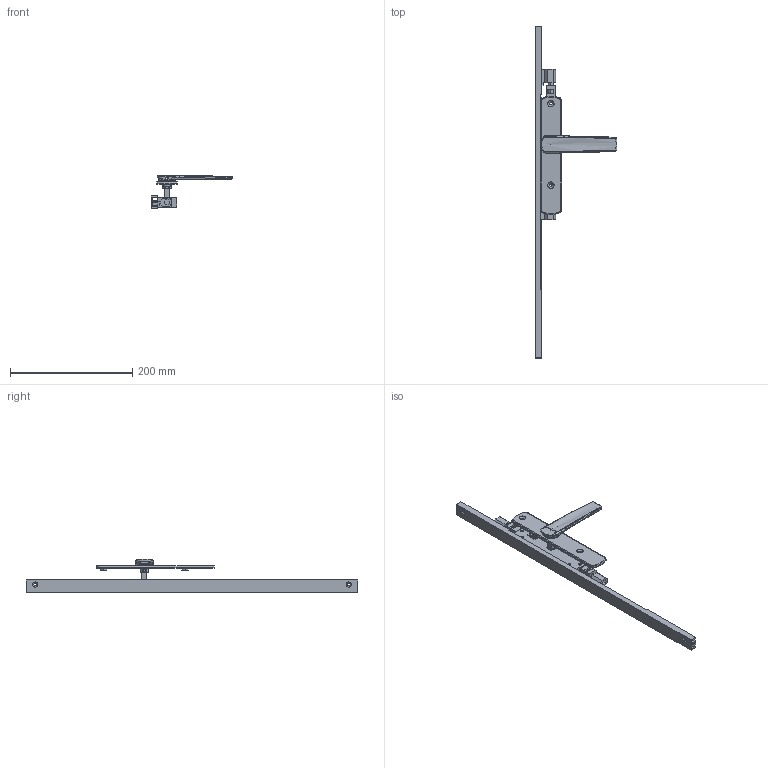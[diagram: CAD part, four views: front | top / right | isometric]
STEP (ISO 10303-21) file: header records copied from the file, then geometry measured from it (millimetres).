
FILE_DESCRIPTION (( 'STEP AP214' ), '1' );
FILE_NAME ('TPL-W-APC-604-U 28Oct2024.STEP', '2024-10-28T03:16:32', ( '' ), ( '' ), 'SwSTEP 2.0', 'SolidWorks 2023', '' );
FILE_SCHEMA (( 'AUTOMOTIVE_DESIGN' ));
Length unit declared in the file: millimetre
Products named in the file (18): Copy of COV-115-C Cover C suit TPLGen2 standard range AU^TPL-W-APC-104 18Oct2024; Copy of LKC-585 Rotator body zinc^Copy of TPGen2 handle non-keyed short zinc - simplified_TPL-W-APC-104 18Oct2024; Copy of COV-115-A Cover A suit TPLGen2 standard range AU with hinge holes^TPL-W-APC-104 18Oct2024_2870mm; Copy of LKC-586 Spindle square 8mm with M4 hole^Copy of TPGen2 handle non-keyed short zinc - simplified_TPL-W-APC-104 18Oct2024_37mm; Copy of LKC-531-A Rod TPLGen2 machined bolt end^TPL-W-APC-104 18Oct2024_LKC-531-A-M003; Copy of TPGen2 handle non-keyed short zinc - simplified^TPL-W-APC-104 18Oct2024_Right; Adapter D - simplfied^TPL-W-APC-104 18Oct2024; Bottom twinpoint transmission rod wood system^TPL-W-APC-104 18Oct2024_Standard Range 2891.7mm; TPL-W-APC-604-U 28Oct2024; Bolt.step; Adapter C - simplfied^TPL-W-APC-104 18Oct2024; Copy of COV-115-B Cover B suit TPLGen2 standard range AU with hinge holes^TPL-W-APC-104 18Oct2024_2870mm; Copy of TPLGen2 lock body non-keyed^Copy of TPLGen2 lock body non-keyed assembly_TPL-W-APC-104 18Oct2024; Copy of TPLGen2 push rod - simplified^Copy of TPLGen2 lock body non-keyed assembly_TPL-W-APC-104 18Oct2024_Female thread M10; Copy of LKC-584 Pivot body zinc - simplified^Copy of TPGen2 handle non-keyed short zinc - simplified_TPL-W-APC-104 18Oct2024; Copy of TPLGen2 lock body non-keyed assembly^TPL-W-APC-104 18Oct2024_Bolts retracted; Copy of LKC-505 Swing handle zinc - simplified^Copy of TPGen2 handle non-keyed short zinc - simplified_TPL-W-APC-104 18Oct2024; Copy of LKC-516 Escutcheon plate unkeyed 195mm long zinc - simplified^Copy of TPGen2 handle non-keyed short zinc - simplified_TPL-W-APC-104 18Oct2024
Assembly tree (15 placements, depth 3):
  Copy of COV-115-A Cover A suit TPLGen2 standard range AU with hinge holes^TPL-W-APC-104 18Oct2024_2870mm
  TPL-W-APC-604-U 28Oct2024
    Copy of TPLGen2 lock body non-keyed assembly^TPL-W-APC-104 18Oct2024_Bolts retracted
      Copy of TPLGen2 lock body non-keyed^Copy of TPLGen2 lock body non-keyed assembly_TPL-W-APC-104 18Oct2024
      Copy of TPLGen2 push rod - simplified^Copy of TPLGen2 lock body non-keyed assembly_TPL-W-APC-104 18Oct2024_Female thread M10  x2
    Copy of TPGen2 handle non-keyed short zinc - simplified^TPL-W-APC-104 18Oct2024_Right
      Copy of LKC-516 Escutcheon plate unkeyed 195mm long zinc - simplified^Copy of TPGen2 handle non-keyed short zinc - simplified_TPL-W-APC-104 18Oct2024
      Copy of LKC-505 Swing handle zinc - simplified^Copy of TPGen2 handle non-keyed short zinc - simplified_TPL-W-APC-104 18Oct2024
      Copy of LKC-585 Rotator body zinc^Copy of TPGen2 handle non-keyed short zinc - simplified_TPL-W-APC-104 18Oct2024
      Copy of LKC-586 Spindle square 8mm with M4 hole^Copy of TPGen2 handle non-keyed short zinc - simplified_TPL-W-APC-104 18Oct2024_37mm
      Copy of LKC-584 Pivot body zinc - simplified^Copy of TPGen2 handle non-keyed short zinc - simplified_TPL-W-APC-104 18Oct2024
    Copy of COV-115-C Cover C suit TPLGen2 standard range AU^TPL-W-APC-104 18Oct2024
    Bottom twinpoint transmission rod wood system^TPL-W-APC-104 18Oct2024_Standard Range 2891.7mm
    Copy of LKC-531-A Rod TPLGen2 machined bolt end^TPL-W-APC-104 18Oct2024_LKC-531-A-M003
    Adapter D - simplfied^TPL-W-APC-104 18Oct2024
    Adapter C - simplfied^TPL-W-APC-104 18Oct2024
  Bolt.step
  Copy of COV-115-B Cover B suit TPLGen2 standard range AU with hinge holes^TPL-W-APC-104 18Oct2024_2870mm
Bounding box: 134.12 x 544 x 55.06 mm (x, y, z)
Volume: 203030.4 mm3; surface area: 114030.4 mm2
Topology: 13 solids, 13 shells, 849 faces, 2094 edges, 1300 vertices
Faces by surface type: plane 306, bspline 241, cylinder 182, cone 66, torus 46, sphere 8
Entity records: 30613 total; most frequent: CARTESIAN_POINT 12551, ORIENTED_EDGE 3996, DIRECTION 3180, EDGE_CURVE 1998, VERTEX_POINT 1240, AXIS2_PLACEMENT_3D 1147, EDGE_LOOP 896, VECTOR 886
